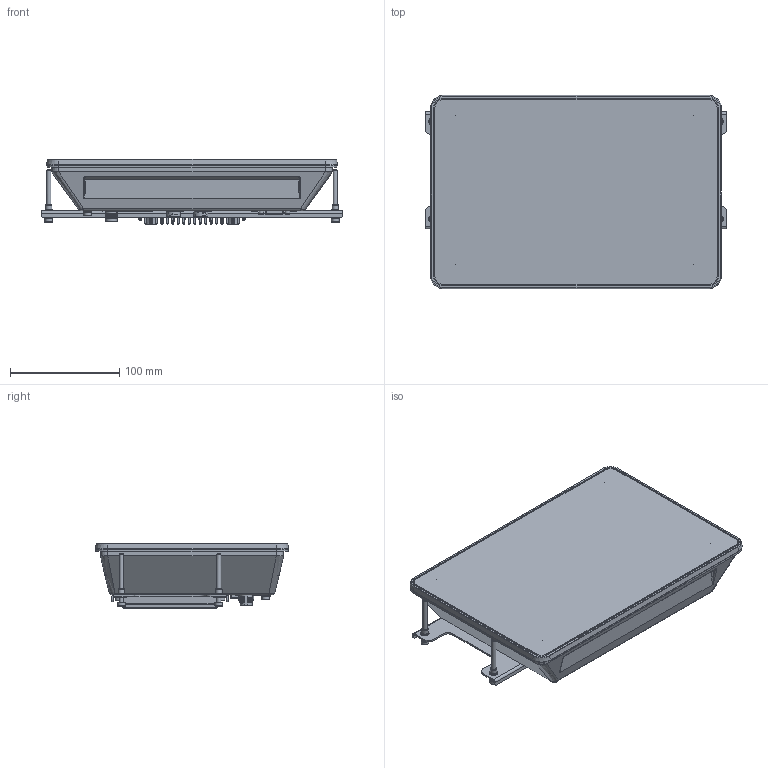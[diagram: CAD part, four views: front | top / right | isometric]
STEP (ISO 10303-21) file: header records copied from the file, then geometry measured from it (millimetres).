
FILE_DESCRIPTION(/* description */ (''),/* implementation_level */ '2;1');
FILE_NAME(/* name */ 'D:\Modelle vereinfacht\notion.F\778-21988-01\778-21988-01_02_EXTERN.stp',/* time_stamp */ '2023-09-29T10:13:59+02:00',/* author */ ('Blessing'),/* organization */ (''),/* preprocessor_version */ 'ST-DEVELOPER v18.1',/* originating_system */ 'Autodesk Inventor 2021',/* authorisation */ '');
FILE_SCHEMA (('AUTOMOTIVE_DESIGN { 1 0 10303 214 3 1 1 }'));
Products named in the file (3): Baugruppe2; 778-21988-01_02_EXTERN; Einbau Montagekit_EXTERN
Assembly tree (2 placements, depth 2):
  Baugruppe2
    778-21988-01_02_EXTERN
    Einbau Montagekit_EXTERN
Bounding box: 276 x 176.67 x 59.73 mm (x, y, z)
Volume: 1890451.6 mm3; surface area: 250071 mm2
Topology: 3 solids, 18 shells, 8220 faces, 21479 edges, 13681 vertices
Faces by surface type: plane 4011, bspline 2140, cylinder 1781, cone 218, torus 62, sphere 8
Full cylindrical faces by diameter (mm): 1.05 x8, 1.1 x2, 1.5 x4, 2.17 x4, 2.845 x2, 3.2 x2, 3.242 x9, 3.8 x6, 4 x13, 4.3 x5, 4.4 x4, 4.6 x2, 5 x4, 5.54 x6, 5.9 x8, 6 x5, 6.5 x2, 7 x9, 8.3 x1, 8.35 x1, 9 x4, 9.45 x1, 9.6 x1, 10.95 x10, 13.917 x1
Entity records: 309720 total; most frequent: CARTESIAN_POINT 115447, ORIENTED_EDGE 42798, DIRECTION 33610, EDGE_CURVE 21399, VERTEX_POINT 13683, LINE 12962, VECTOR 12962, AXIS2_PLACEMENT_3D 10324
